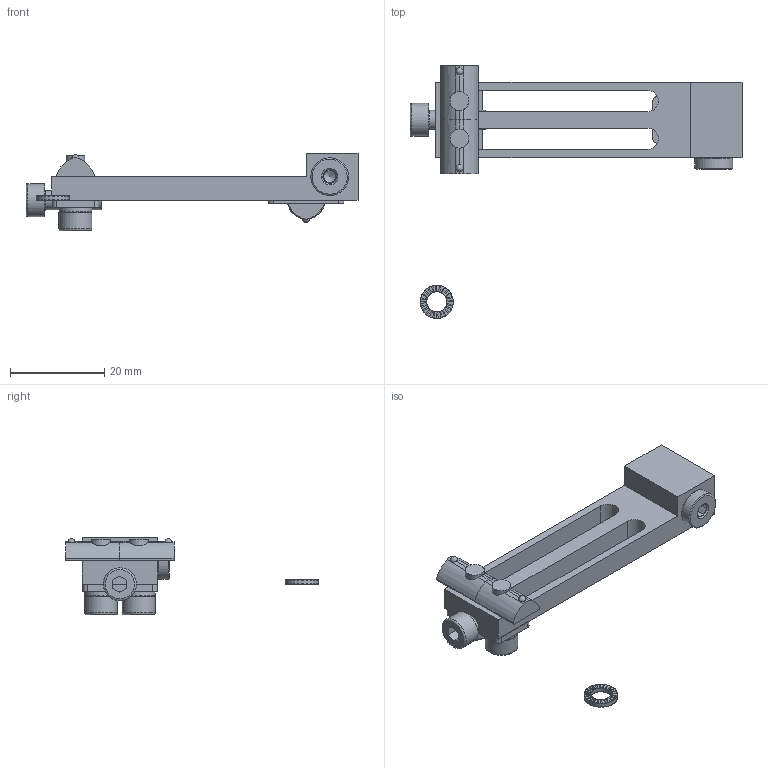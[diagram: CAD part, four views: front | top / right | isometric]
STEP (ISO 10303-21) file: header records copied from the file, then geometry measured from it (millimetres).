
FILE_DESCRIPTION( ( 'STEP AP214' ), '1' );
FILE_NAME( 'C:/Users/Segreteria/Desktop/CA.WLS.M5.M5.5.stp', '2014-07-03T13:10:59', ( ' ' ), ( ' ' ), 'XStep 1.0', ' ', ' ' );
FILE_SCHEMA( ( 'CONFIG_CONTROL_DESIGN) ( )' ) );
Length unit declared in the file: metre
Products named in the file (10): Assem1; Assem2; CA.08.14.013; WLS.M5.M5; R.04.08; R.4.SCH; CA.02.05.002; V-tcei M  4 x 12
Bounding box: 70.5 x 53.64 x 16.5 mm (x, y, z)
Volume: 14084.2 mm3; surface area: 14873.5 mm2
Topology: 15 solids, 19 shells, 1052 faces, 2979 edges, 1961 vertices
Faces by surface type: plane 931, cylinder 85, cone 22, torus 11, sphere 3
Full cylindrical faces by diameter (mm): 2.6 x3, 3.8 x3, 4 x7, 4.134 x6, 4.3 x4, 4.6 x4, 5 x3, 7 x8, 8 x3
Entity records: 16318 total; most frequent: CARTESIAN_POINT 2875, DIRECTION 2829, ORIENTED_EDGE 2732, EDGE_CURVE 1366, AXIS2_PLACEMENT_3D 966, VERTEX_POINT 920, LINE 897, VECTOR 897
